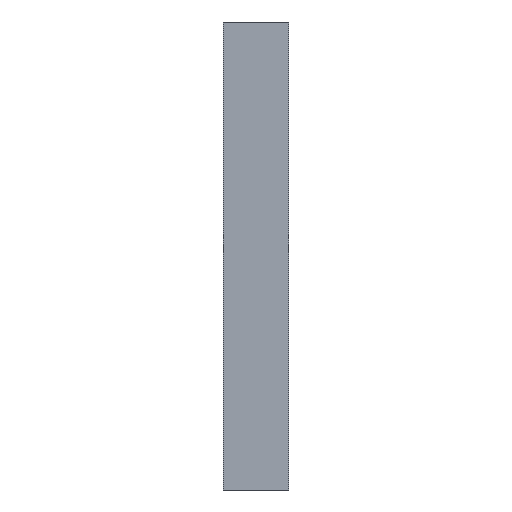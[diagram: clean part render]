
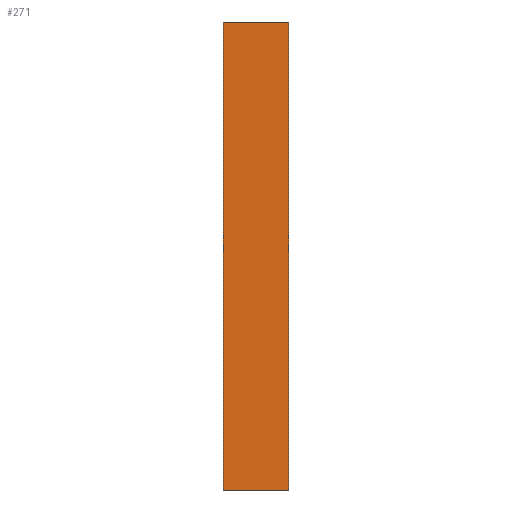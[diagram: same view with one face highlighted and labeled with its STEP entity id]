
A CAD part, front view. The second image highlights one B-rep face of the part: STEP entity #271.
In plain terms, the highlighted planar face has unit normal (0, -1, 0).
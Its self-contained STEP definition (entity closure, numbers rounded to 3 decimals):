
#116=CARTESIAN_POINT('',(-143.,-6.35,0.0));
#117=VERTEX_POINT('',#116);
#124=CARTESIAN_POINT('',(-143.,-6.35,2032.));
#125=VERTEX_POINT('',#124);
#126=CARTESIAN_POINT('',(-143.,-6.35,0.0));
#127=DIRECTION('',(0.0,0.0,1.0));
#128=VECTOR('',#127,2032.);
#129=LINE('',#126,#128);
#130=EDGE_CURVE('',#117,#125,#129,.T.);
#164=CARTESIAN_POINT('',(143.,-6.35,0.0));
#165=VERTEX_POINT('',#164);
#172=CARTESIAN_POINT('',(143.,-6.35,0.0));
#173=DIRECTION('',(-1.0,0.0,0.0));
#174=VECTOR('',#173,286.0);
#175=LINE('',#172,#174);
#176=EDGE_CURVE('',#165,#117,#175,.T.);
#220=CARTESIAN_POINT('',(143.,-6.35,2032.));
#221=VERTEX_POINT('',#220);
#228=CARTESIAN_POINT('',(143.,-6.35,0.0));
#229=DIRECTION('',(0.0,0.0,1.0));
#230=VECTOR('',#229,2032.);
#231=LINE('',#228,#230);
#232=EDGE_CURVE('',#165,#221,#231,.T.);
#255=CARTESIAN_POINT('',(-143.,-6.35,0.0));
#256=DIRECTION('',(0.0,-1.0,0.0));
#257=DIRECTION('',(1.0,0.0,0.0));
#258=AXIS2_PLACEMENT_3D('',#255,#256,#257);
#259=PLANE('',#258);
#260=ORIENTED_EDGE('',*,*,#176,.F.);
#261=ORIENTED_EDGE('',*,*,#232,.T.);
#262=CARTESIAN_POINT('',(-143.,-6.35,2032.));
#263=DIRECTION('',(1.0,0.0,0.0));
#264=VECTOR('',#263,286.0);
#265=LINE('',#262,#264);
#266=EDGE_CURVE('',#125,#221,#265,.T.);
#267=ORIENTED_EDGE('',*,*,#266,.F.);
#268=ORIENTED_EDGE('',*,*,#130,.F.);
#269=EDGE_LOOP('',(#260,#261,#267,#268));
#270=FACE_OUTER_BOUND('',#269,.T.);
#271=ADVANCED_FACE('',(#270),#259,.T.);
